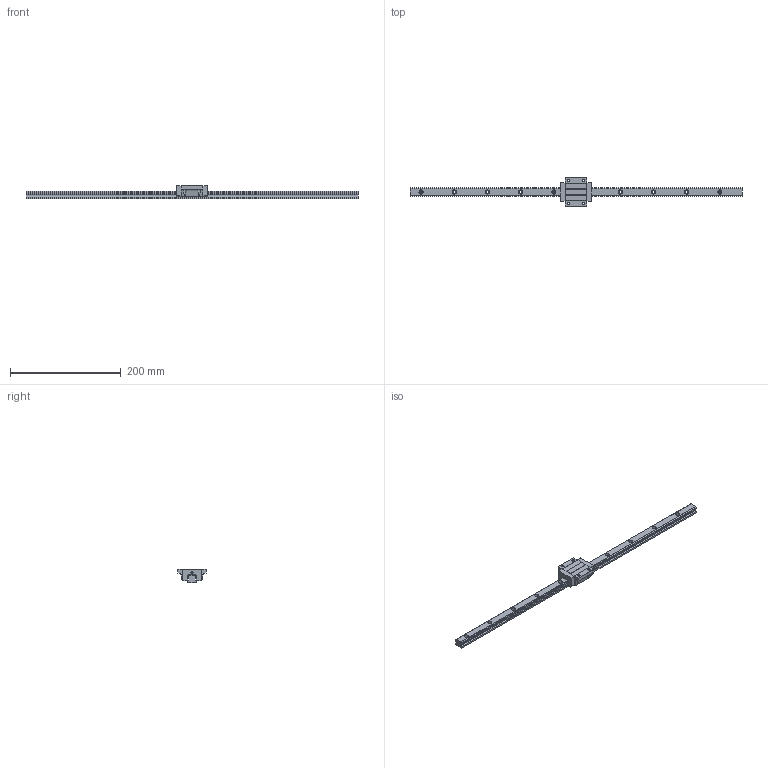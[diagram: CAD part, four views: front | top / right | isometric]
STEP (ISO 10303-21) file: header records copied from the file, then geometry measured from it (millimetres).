
FILE_DESCRIPTION (( 'STEP AP203' ), '1' );
FILE_NAME ('TRS15FN-XN.STEP', '2023-02-07T05:05:50', ( '' ), ( '' ), 'SwSTEP 2.0', 'SolidWorks 2019', '' );
FILE_SCHEMA (( 'CONFIG_CONTROL_DESIGN' ));
Length unit declared in the file: millimetre
Products named in the file (1): TRS15FN-XN
Bounding box: 600 x 52 x 24 mm (x, y, z)
Volume: 137845.2 mm3; surface area: 47580.4 mm2
Topology: 2 solids, 2 shells, 186 faces, 478 edges, 304 vertices
Faces by surface type: cylinder 92, plane 90, sphere 4
Entity records: 6099 total; most frequent: CARTESIAN_POINT 1363, DIRECTION 998, ORIENTED_EDGE 948, EDGE_CURVE 474, AXIS2_PLACEMENT_3D 359, VERTEX_POINT 304, VECTOR 280, LINE 280
